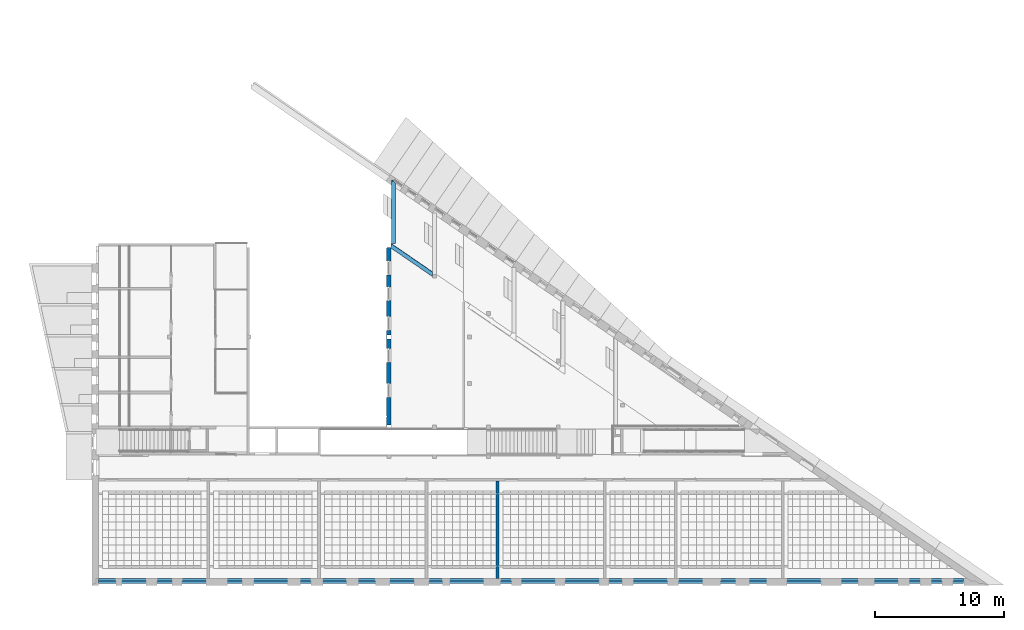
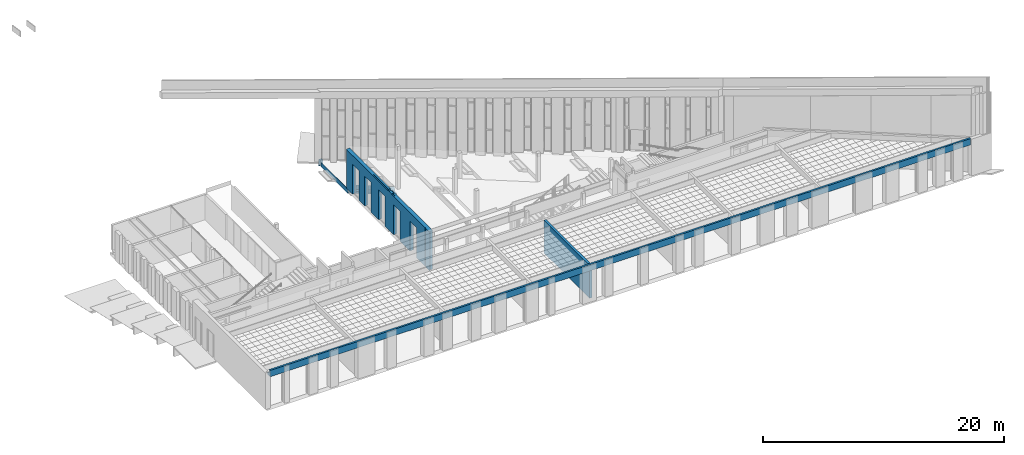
# One storey, part 41 of 79: 5 walls, 5 openings.
"""IFC2X3 building model written with IfcOpenShell, lengths in millimetres."""

from ifc_helpers import new_model, entity, si_unit, converted_unit, derived_unit, money_unit, direction, frame, origin_with_axes, place, context, subcontext, project, spatial, open_shell, faceted_brep, surface_model, material, material_list, type_object, element, save


model = new_model("IFC2X3")

# Units and contexts
model_context = context("Model", 3, precision=0.01, world=origin_with_axes(), true_north=direction((0.0, 1.0)))
body_context = subcontext(model_context, "Body", "Model", "MODEL_VIEW")
ifc_project = project(units=[si_unit("LENGTHUNIT", "METRE", prefix="MILLI"), si_unit("AREAUNIT", "SQUARE_METRE"), si_unit("VOLUMEUNIT", "CUBIC_METRE"), converted_unit("PLANEANGLEUNIT", "DEGREE", entity("IfcPlaneAngleMeasure", 0.0174532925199), si_unit("PLANEANGLEUNIT", "RADIAN"), dimensions=[0, 0, 0, 0, 0, 0, 0]), si_unit("SOLIDANGLEUNIT", "STERADIAN"), money_unit("EUR"), converted_unit("TIMEUNIT", "Year", entity("IfcTimeMeasure", 31556926.0), si_unit("TIMEUNIT", "SECOND"), dimensions=[0, 0, 1, 0, 0, 0, 0]), si_unit("MASSUNIT", "GRAM", prefix="KILO"), si_unit("THERMODYNAMICTEMPERATUREUNIT", "DEGREE_CELSIUS"), si_unit("LUMINOUSINTENSITYUNIT", "LUMEN"), si_unit("ENERGYUNIT", "JOULE", prefix="MEGA"), derived_unit("THERMALCONDUCTANCEUNIT", [(si_unit("POWERUNIT", "WATT"), 1), (si_unit("LENGTHUNIT", "METRE"), -1), (si_unit("THERMODYNAMICTEMPERATUREUNIT", "KELVIN"), -1)]), derived_unit("SPECIFICHEATCAPACITYUNIT", [(si_unit("ENERGYUNIT", "JOULE"), 1), (si_unit("MASSUNIT", "GRAM", prefix="KILO"), -1), (si_unit("THERMODYNAMICTEMPERATUREUNIT", "KELVIN"), -1)]), derived_unit("MASSDENSITYUNIT", [(si_unit("MASSUNIT", "GRAM", prefix="KILO"), 1), (si_unit("VOLUMEUNIT", "CUBIC_METRE"), -1)])], contexts=[model_context])

# Site, building, storey
site_placement = place(None, origin_with_axes())
site = spatial("IfcSite", under=ifc_project, at=site_placement, Name="L.Koidula tn 11b", CompositionType="ELEMENT")
building_placement = place(site_placement, origin_with_axes())
building = spatial("IfcBuilding", under=site, at=building_placement, Name="Rakvere Riigigümnaasium", CompositionType="ELEMENT")
storey_placement = place(building_placement, frame((0.0, 0.0, 3720.0), z_axis=(0.0, 0.0, 1.0), x_axis=(1.0, 0.0, 0.0)))
storey = spatial("IfcBuildingStorey", under=building, at=storey_placement, Name="2.korrus +3,72", CompositionType="ELEMENT", Elevation=3720.0)

# Wall
ifc_material_1 = material(Name="siseviimistlus-seinad")
ifc_material_2 = material(Name="Betoon element / plaat")
ifc_material_list_1 = material_list([ifc_material_1, ifc_material_2, ifc_material_1])
wall_type_1 = type_object("IfcWallType", Name="SS-01-2 220", PredefinedType="NOTDEFINED")
wall_1_placement = place(storey_placement, frame((66340.0149327, 13280.4543717, 0.0), z_axis=(0.0, 0.0, 1.0), x_axis=(0.0, -1.0, 0.0)))
element("IfcWall", 1, at=wall_1_placement, inside=storey, type_object=wall_type_1, material=ifc_material_list_1, Name="Sisesein", context=body_context, shape_type="Brep", body=[
    faceted_brep([(7779.99883287, 200.0, 3320.0), (7779.99883287, 210.0, 3320.0), (210.0, 210.0, 3320.00000006), (210.0, 200.0, 3320.00000006), (7779.99883287, 200.0, 0.0), (7779.99883287, 210.0, 0.0), (210.0, 210.0, 0.0), (210.0, 200.0, 0.0)], [[[0, 1, 2, 3]], [[1, 0, 4, 5]], [[1, 5, 6, 2]], [[3, 2, 6, 7]], [[0, 3, 7, 4]], [[5, 4, 7, 6]]]),
    faceted_brep([(7779.99883287, 0.0, 3320.0), (7779.99883287, 200.0, 3320.0), (200.0, 200.0, 3320.00000006), (200.0, 0.0, 3320.00000006), (7779.99883287, 0.0, 0.0), (7779.99883287, 200.0, 0.0), (200.0, 200.0, 0.0), (200.0, 0.0, 0.0)], [[[0, 1, 2, 3]], [[1, 0, 4, 5]], [[1, 5, 6, 2]], [[3, 2, 6, 7]], [[0, 3, 7, 4]], [[5, 4, 7, 6]]]),
    faceted_brep([(7779.99883287, -10.0, 3320.0), (7779.99883287, 0.0, 3320.0), (210.0, 0.0, 3320.00000006), (210.0, -10.0, 3320.00000006), (7779.99883287, -10.0, 0.0), (7779.99883287, 0.0, 0.0), (210.0, 0.0, 0.0), (210.0, -10.0, 0.0)], [[[0, 1, 2, 3]], [[1, 0, 4, 5]], [[1, 5, 6, 2]], [[3, 2, 6, 7]], [[0, 3, 7, 4]], [[5, 4, 7, 6]]]),
])

# Wall, openings
ifc_material_3 = material(Name="mineraalvill+karkass")
ifc_material_4 = material(Name="Kipsplaat")
ifc_material_list_2 = material_list([ifc_material_2, ifc_material_3, ifc_material_4])
wall_type_2 = type_object("IfcWallType", Name="SS-02 335", PredefinedType="NOTDEFINED")
wall_2_placement = place(storey_placement, frame((58180.0348101, 31500.4555152, -1405.0), z_axis=(0.0, 0.0, 1.0), x_axis=(0.0, -1.0, 0.0)))
wall_2 = element("IfcWall", 2, at=wall_2_placement, inside=storey, type_object=wall_type_2, material=ifc_material_list_2, Name="Sisesein", context=body_context, shape_type="Brep", body=[
    faceted_brep([(11944.3099028, 0.0, 10.0), (11944.3099028, 0.0, 3030.0), (10864.3099028, 0.0, 3030.0), (10864.3099028, 0.0, 10.0), (10864.3099028, 2.12536832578e-06, 0.0), (9244.45907353, 3.16058645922e-06, 0.0), (9244.45907353, 0.0, 10.0), (9244.45907353, 7.17945738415e-05, 3030.0), (8164.45907353, 7.17945738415e-05, 3030.0), (8164.45907353, 0.0, 10.0), (8164.45907353, 3.85079346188e-06, 0.0), (7399.999968, 7.17945738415e-05, 0.0), (7399.999968, 7.17945738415e-05, 3900.0), (14090.0000057, 7.17945667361e-05, 3900.0), (14090.0000057, 7.17945667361e-05, 0.0), (11944.3099028, 1.43516132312e-06, 0.0), (11944.3099028, -200.000025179, 10.0), (11944.3099028, -200.0, 3030.0), (10864.3099028, -200.0, 3030.0), (10864.3099028, -200.000025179, 10.0), (10864.3099028, -200.000025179, 0.0), (9244.45907353, -200.000025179, 0.0), (9244.45907353, -200.000025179, 10.0), (9244.45907353, -200.0, 3030.0), (8164.45907353, -200.0, 3030.0), (8164.45907353, -200.000025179, 10.0), (8164.45907353, -200.000025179, 0.0), (7399.999968, -200.000025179, 0.0), (7399.999968, -120.0, 3900.0), (7399.999968, -200.0, 3955.00000083), (7399.999968, -120.0, 3955.00000083), (7859.80282655, -120.0, 3900.0), (7859.80282655, -200.0, 3900.0), (14090.0000057, -200.0, 3900.0), (14090.0000057, -200.000001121, 0.0), (11944.3099028, -200.000025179, 0.0), (7859.80282655, -200.0, 3955.0000009), (7859.80282655, -120.0, 3955.0000009)], [[[0, 1, 2, 3, 4, 5, 6, 7, 8, 9, 10, 11, 12, 13, 14, 15]], [[1, 0, 16, 17]], [[2, 1, 17, 18]], [[3, 2, 18, 19]], [[3, 19, 20, 4]], [[20, 21, 5, 4]], [[6, 5, 21, 22]], [[6, 22, 23, 7]], [[7, 23, 24, 8]], [[8, 24, 25, 9]], [[25, 26, 10, 9]], [[10, 26, 27, 11]], [[28, 12, 11, 27, 29, 30]], [[12, 28, 31, 32, 33, 13]], [[33, 34, 14, 13]], [[35, 15, 14, 34]], [[16, 0, 15, 35]], [[17, 16, 35, 34, 33, 32, 36, 29, 27, 26, 25, 24, 23, 22, 21, 20, 19, 18]], [[36, 37, 30, 29]], [[37, 31, 28, 30]], [[37, 36, 32, 31]]]),
    faceted_brep([(2445.0463187, 0.0, 10.0), (2445.0463187, 0.0, 3030.0), (1365.0463187, 0.0, 3030.0), (1365.0463187, 0.0, 10.0), (1365.0463187, 8.19614598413e-06, 0.0), (300.000020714, 7.17945738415e-05, 0.0), (300.000020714, 7.17945738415e-05, 3900.0), (7099.999968, 7.17945738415e-05, 3900.0), (7099.999968, 7.17945738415e-05, 0.0), (6744.14874071, 4.7584833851e-06, 0.0), (6744.14874071, 0.0, 10.0), (6744.14874071, 7.17945738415e-05, 3030.0), (5664.14874071, 7.17945738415e-05, 3030.0), (5664.14874071, 0.0, 10.0), (5664.14874071, 5.44868328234e-06, 0.0), (4444.81528977, 6.22793550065e-06, 0.0), (4444.81528977, 0.0, 10.0), (4444.81528977, 0.0, 3030.0), (3364.81528977, 0.0, 3030.0), (3364.81528977, 0.0, 10.0), (3364.81528977, 6.91813539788e-06, 0.0), (2445.0463187, 7.50593898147e-06, 0.0), (2445.0463187, -200.000025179, 10.0), (2445.0463187, -200.000025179, 3030.0), (1365.0463187, -200.000025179, 3030.0), (1365.0463187, -200.000025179, 10.0), (1365.0463187, -200.000025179, 0.0), (300.000020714, -200.000002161, 0.0), (300.000020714, -200.0, 3900.0), (7099.999968, -200.0, 3900.0), (7099.999968, -200.000025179, 0.0), (6744.14874071, -200.000025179, 0.0), (6744.14874071, -200.000025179, 10.0), (6744.14874071, -200.000025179, 3030.0), (5664.14874071, -200.000025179, 3030.0), (5664.14874071, -200.000025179, 10.0), (5664.14874071, -200.000025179, 0.0), (4444.81528977, -200.000025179, 0.0), (4444.81528977, -200.000025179, 10.0), (4444.81528977, -200.000025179, 3030.0), (3364.81528977, -200.000025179, 3030.0), (3364.81528977, -200.000025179, 10.0), (3364.81528977, -200.000025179, 0.0), (2445.0463187, -200.000025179, 0.0)], [[[0, 1, 2, 3, 4, 5, 6, 7, 8, 9, 10, 11, 12, 13, 14, 15, 16, 17, 18, 19, 20, 21]], [[1, 0, 22, 23]], [[2, 1, 23, 24]], [[3, 2, 24, 25]], [[3, 25, 26, 4]], [[26, 27, 5, 4]], [[27, 28, 6, 5]], [[28, 29, 7, 6]], [[30, 8, 7, 29]], [[9, 8, 30, 31]], [[9, 31, 32, 10]], [[32, 33, 11, 10]], [[33, 34, 12, 11]], [[34, 35, 13, 12]], [[36, 14, 13, 35]], [[37, 15, 14, 36]], [[16, 15, 37, 38]], [[16, 38, 39, 17]], [[17, 39, 40, 18]], [[18, 40, 41, 19]], [[41, 42, 20, 19]], [[43, 21, 20, 42]], [[22, 0, 21, 43]], [[23, 22, 43, 42, 41, 40, 39, 38, 37, 36, 35, 34, 33, 32, 31, 30, 29, 28, 27, 26, 25, 24]]]),
    faceted_brep([(11944.3099028, -210.0, 0.0), (11944.3099028, -210.0, 3030.0), (10864.3099028, -210.0, 3030.0), (10864.3099028, -210.0, 0.0), (9244.45907353, -210.0, 0.0), (9244.45907353, -210.0, 3030.0), (8164.45907353, -210.0, 3030.0), (8164.45907353, -210.0, 0.0), (7399.999968, -210.0, 0.0), (7399.999968, -210.0, 3955.00000083), (7859.80282655, -210.0, 3955.0000009), (7859.80282655, -210.0, 3900.0), (14090.0000057, -210.0, 3900.0), (14090.0000057, -210.0, 0.0), (11944.3099028, -310.0, 0.0), (11944.3099028, -310.0, 3030.0), (10864.3099028, -310.0, 3030.0), (10864.3099028, -310.0, 0.0), (9244.45907353, -310.0, 0.0), (9244.45907353, -310.0, 3030.0), (8164.45907353, -310.0, 3030.0), (8164.45907353, -310.0, 0.0), (7099.999968, -299.999928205, 0.0), (7399.999968, -299.999928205, 0.0), (6744.14874071, -310.0, 0.0), (6744.14874071, -210.0, 0.0), (7099.999968, -210.0, 0.0), (7399.999968, -299.999928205, 3955.0000009), (7859.80282655, -310.0, 3955.0000009), (7219.999968, -299.999928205, 3955.0000008), (7219.999968, -310.0, 3955.0000008), (7859.80282655, -310.0, 3900.0), (14190.0000057, -310.0, 3900.0), (14190.0000057, -299.999928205, 3900.0), (14090.0000057, -299.999928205, 3900.0), (14090.0000057, -299.999928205, 0.0), (14190.0000057, -299.999928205, 0.0), (14190.0000057, -310.0, 0.0), (7219.999968, -310.0, 3900.0), (310.0, -310.0, 3900.0), (310.0, -310.0, 0.0), (1365.0463187, -310.0, 0.0), (1365.0463187, -310.0, 3030.0), (2445.0463187, -310.0, 3030.0), (2445.0463187, -310.0, 0.0), (3364.81528977, -310.0, 0.0), (3364.81528977, -310.0, 3030.0), (4444.81528977, -310.0, 3030.0), (4444.81528977, -310.0, 0.0), (5664.14874071, -310.0, 0.0), (5664.14874071, -310.0, 3030.0), (6744.14874071, -310.0, 3030.0), (7099.999968, -299.999928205, 3900.0), (7219.999968, -299.999928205, 3900.0), (6744.14874071, -210.0, 3030.0), (5664.14874071, -210.0, 3030.0), (5664.14874071, -210.0, 0.0), (4444.81528977, -210.0, 0.0), (4444.81528977, -210.0, 3030.0), (3364.81528977, -210.0, 3030.0), (3364.81528977, -210.0, 0.0), (2445.0463187, -210.0, 0.0), (2445.0463187, -210.0, 3030.0), (1365.0463187, -210.0, 3030.0), (1365.0463187, -210.0, 0.0), (310.0, -210.0, 0.0), (310.0, -210.0, 3900.0), (7099.999968, -210.0, 3900.0)], [[[0, 1, 2, 3, 4, 5, 6, 7, 8, 9, 10, 11, 12, 13]], [[1, 0, 14, 15]], [[2, 1, 15, 16]], [[3, 2, 16, 17]], [[3, 17, 18, 4]], [[4, 18, 19, 5]], [[5, 19, 20, 6]], [[6, 20, 21, 7]], [[22, 23, 8, 7, 21, 24, 25, 26]], [[9, 8, 23, 27]], [[28, 10, 9, 27, 29, 30]], [[11, 10, 28, 31]], [[11, 31, 32, 33, 34, 12]], [[12, 34, 35, 13]], [[14, 0, 13, 35, 36, 37]], [[15, 14, 37, 32, 31, 28, 30, 38, 39, 40, 41, 42, 43, 44, 45, 46, 47, 48, 49, 50, 51, 24, 21, 20, 19, 18, 17, 16]], [[27, 23, 22, 52, 53, 29]], [[54, 25, 24, 51]], [[55, 56, 57, 58, 59, 60, 61, 62, 63, 64, 65, 66, 67, 26, 25, 54]], [[67, 52, 22, 26]], [[53, 38, 30, 29]], [[33, 32, 37, 36]], [[33, 36, 35, 34]], [[66, 39, 38, 53, 52, 67]], [[39, 66, 65, 40]], [[40, 65, 64, 41]], [[42, 41, 64, 63]], [[43, 42, 63, 62]], [[44, 43, 62, 61]], [[60, 45, 44, 61]], [[45, 60, 59, 46]], [[46, 59, 58, 47]], [[47, 58, 57, 48]], [[49, 48, 57, 56]], [[56, 55, 50, 49]], [[55, 54, 51, 50]]]),
    faceted_brep([(13481.0000057, -335.0, 3900.0), (13481.0000057, -310.0, 3900.0), (13481.0000057, -310.0, 0.0), (13481.0000057, -335.0, 0.0), (14190.0000057, -310.0, 3900.0), (14190.0000057, -335.0, 3900.0), (14190.0000057, -310.0, 0.0), (14190.0000057, -335.0, 0.0)], [[[0, 1, 2, 3]], [[4, 1, 0, 5]], [[1, 4, 6, 2]], [[2, 6, 7, 3]], [[5, 0, 3, 7]], [[4, 5, 7, 6]]]),
    faceted_brep([(11944.3099028, -310.0, 0.0), (11944.3099028, -310.0, 3030.0), (10864.3099028, -310.0, 3030.0), (10864.3099028, -310.0, 0.0), (9244.45907353, -310.0, 0.0), (9244.45907353, -310.0, 3030.0), (8164.45907353, -310.0, 3030.0), (8164.45907353, -310.0, 0.0), (6744.14874071, -310.0, 0.0), (6744.14874071, -310.0, 3030.0), (5664.14874071, -310.0, 3030.0), (5664.14874071, -310.0, 0.0), (4444.81528977, -310.0, 0.0), (4444.81528977, -310.0, 3030.0), (3364.81528977, -310.0, 3030.0), (3364.81528977, -310.0, 0.0), (2445.0463187, -310.0, 0.0), (2445.0463187, -310.0, 3030.0), (1365.0463187, -310.0, 3030.0), (1365.0463187, -310.0, 0.0), (335.0, -310.0, 0.0), (335.0, -310.0, 3900.0), (7219.999968, -310.0, 3900.0), (7219.999968, -310.0, 3955.00000081), (7859.80282655, -310.0, 3955.00000091), (7859.80282655, -310.0, 3900.0), (13373.0000057, -310.0, 3900.0), (13373.0000057, -310.0, 0.0), (11944.3099028, -335.0, 0.0), (11944.3099028, -335.0, 3030.0), (10864.3099028, -335.0, 3030.0), (10864.3099028, -335.0, 0.0), (9244.45907353, -335.0, 0.0), (9244.45907353, -335.0, 3030.0), (8164.45907353, -335.0, 3030.0), (8164.45907353, -335.0, 0.0), (6744.14874071, -335.0, 0.0), (6744.14874071, -335.0, 3030.0), (5664.14874071, -335.0, 3030.0), (5664.14874071, -335.0, 0.0), (4444.81528977, -335.0, 0.0), (4444.81528977, -335.0, 3030.0), (3364.81528977, -335.0, 3030.0), (3364.81528977, -335.0, 0.0), (2445.0463187, -335.0, 0.0), (2445.0463187, -335.0, 3030.0), (1365.0463187, -335.0, 3030.0), (1365.0463187, -335.0, 0.0), (335.0, -335.0, 0.0), (335.0, -335.0, 3900.0), (7219.999968, -335.0, 3900.0), (7219.999968, -335.0, 3955.00000081), (7859.80282655, -335.0, 3955.00000091), (7859.80282655, -335.0, 3900.0), (12270.015808, -335.0, 3900.0), (13373.0000057, -335.0, 3900.0), (13373.0000057, -335.0, 0.0)], [[[0, 1, 2, 3, 4, 5, 6, 7, 8, 9, 10, 11, 12, 13, 14, 15, 16, 17, 18, 19, 20, 21, 22, 23, 24, 25, 26, 27]], [[1, 0, 28, 29]], [[2, 1, 29, 30]], [[3, 2, 30, 31]], [[3, 31, 32, 4]], [[4, 32, 33, 5]], [[5, 33, 34, 6]], [[6, 34, 35, 7]], [[35, 36, 8, 7]], [[9, 8, 36, 37]], [[10, 9, 37, 38]], [[11, 10, 38, 39]], [[39, 40, 12, 11]], [[41, 13, 12, 40]], [[42, 14, 13, 41]], [[43, 15, 14, 42]], [[15, 43, 44, 16]], [[44, 45, 17, 16]], [[45, 46, 18, 17]], [[46, 47, 19, 18]], [[48, 20, 19, 47]], [[21, 20, 48, 49]], [[50, 22, 21, 49]], [[23, 22, 50, 51]], [[24, 23, 51, 52]], [[24, 52, 53, 25]], [[25, 53, 54, 55, 26]], [[55, 56, 27, 26]], [[28, 0, 27, 56]], [[29, 28, 56, 55, 54, 53, 52, 51, 50, 49, 48, 47, 46, 45, 44, 43, 42, 41, 40, 39, 38, 37, 36, 35, 34, 33, 32, 31, 30]]]),
])
opening_1_placement = place(wall_2_placement, frame((6204.14874071, 0.0, 0.0), z_axis=(0.0, 0.0, 1.0), x_axis=(1.0, 0.0, 0.0)))
element("IfcOpeningElement", 3, at=opening_1_placement, cuts=wall_2, Name="ava", context=body_context, shape_type="Brep", body=[
    faceted_brep([(-540.0, -335.0, 0.0), (-540.0, -335.0, 3030.0), (-540.0, 670.0, 3030.0), (-540.0, 670.0, 0.0), (540.0, -335.0, 0.0), (540.0, -335.0, 3030.0), (540.0, 670.0, 3030.0), (540.0, 670.0, 0.0)], [[[0, 1, 2, 3]], [[0, 4, 5, 1]], [[1, 5, 6, 2]], [[3, 2, 6, 7]], [[4, 0, 3, 7]], [[5, 4, 7, 6]]]),
])
opening_2_placement = place(wall_2_placement, frame((3904.81528977, 0.0, 0.0), z_axis=(0.0, 0.0, 1.0), x_axis=(1.0, 0.0, 0.0)))
element("IfcOpeningElement", 4, at=opening_2_placement, cuts=wall_2, Name="ava", context=body_context, shape_type="Brep", body=[
    faceted_brep([(-540.0, -335.0, 0.0), (-540.0, -335.0, 3030.0), (-540.0, 670.0, 3030.0), (-540.0, 670.0, 0.0), (540.0, -335.0, 0.0), (540.0, -335.0, 3030.0), (540.0, 670.0, 3030.0), (540.0, 670.0, 0.0)], [[[0, 1, 2, 3]], [[0, 4, 5, 1]], [[1, 5, 6, 2]], [[3, 2, 6, 7]], [[4, 0, 3, 7]], [[5, 4, 7, 6]]]),
])
opening_3_placement = place(wall_2_placement, frame((1905.0463187, 0.0, 0.0), z_axis=(0.0, 0.0, 1.0), x_axis=(1.0, 0.0, 0.0)))
element("IfcOpeningElement", 5, at=opening_3_placement, cuts=wall_2, Name="ava", context=body_context, shape_type="Brep", body=[
    faceted_brep([(-540.0, -335.0, 0.0), (-540.0, -335.0, 3030.0), (-540.0, 670.0, 3030.0), (-540.0, 670.0, 0.0), (540.0, -335.0, 0.0), (540.0, -335.0, 3030.0), (540.0, 670.0, 3030.0), (540.0, 670.0, 0.0)], [[[0, 1, 2, 3]], [[0, 4, 5, 1]], [[1, 5, 6, 2]], [[3, 2, 6, 7]], [[4, 0, 3, 7]], [[5, 4, 7, 6]]]),
])
opening_4_placement = place(wall_2_placement, frame((8704.45907353, 0.0, 0.0), z_axis=(0.0, 0.0, 1.0), x_axis=(1.0, 0.0, 0.0)))
element("IfcOpeningElement", 6, at=opening_4_placement, cuts=wall_2, Name="ava", context=body_context, shape_type="Brep", body=[
    faceted_brep([(-540.0, -335.0, 0.0), (-540.0, -335.0, 3030.0), (-540.0, 670.0, 3030.0), (-540.0, 670.0, 0.0), (540.0, -335.0, 0.0), (540.0, -335.0, 3030.0), (540.0, 670.0, 3030.0), (540.0, 670.0, 0.0)], [[[0, 1, 2, 3]], [[0, 4, 5, 1]], [[1, 5, 6, 2]], [[3, 2, 6, 7]], [[4, 0, 3, 7]], [[5, 4, 7, 6]]]),
])
opening_5_placement = place(wall_2_placement, frame((11404.3099028, 0.0, 0.0), z_axis=(0.0, 0.0, 1.0), x_axis=(1.0, 0.0, 0.0)))
element("IfcOpeningElement", 7, at=opening_5_placement, cuts=wall_2, Name="ava", context=body_context, shape_type="Brep", body=[
    faceted_brep([(-540.0, -335.0, 0.0), (-540.0, -335.0, 3030.0), (-540.0, 670.0, 3030.0), (-540.0, 670.0, 0.0), (540.0, -335.0, 0.0), (540.0, -335.0, 3030.0), (540.0, 670.0, 3030.0), (540.0, 670.0, 0.0)], [[[0, 1, 2, 3]], [[0, 4, 5, 1]], [[1, 5, 6, 2]], [[3, 2, 6, 7]], [[4, 0, 3, 7]], [[5, 4, 7, 6]]]),
])

# Walls
ifc_material_5 = material(Name="FF-PIR soojustus-2")
ifc_material_6 = material(Name="Betoon-element")
ifc_material_7 = material(Name="Krohv")
ifc_material_list_3 = material_list([ifc_material_5, ifc_material_6, ifc_material_7])
wall_type_3 = type_object("IfcWallType", Name="VS-01-3 390", PredefinedType="NOTDEFINED")
wall_3_placement = place(storey_placement, frame((102599.965664, 5500.45553887, 3075.00001808), z_axis=(0.0, 0.0, 1.0), x_axis=(-1.0, 0.0, 0.0)))
element("IfcWall", 8, at=wall_3_placement, inside=storey, type_object=wall_type_3, material=ifc_material_list_3, Name="Välissein", context=body_context, shape_type="Brep", body=[
    faceted_brep([(67099.0, 200.0, 645.0), (67099.0, 380.0, 645.0), (0.0, 380.0, 645.0), (0.0, 200.0, 645.0), (67099.0, 200.0, 0.0), (67099.0, 380.0, 0.0), (0.0, 380.0, 0.0), (0.0, 200.0, 0.0)], [[[0, 1, 2, 3]], [[0, 4, 5, 1]], [[1, 5, 6, 2]], [[3, 2, 6, 7]], [[4, 0, 3, 7]], [[5, 4, 7, 6]]]),
    faceted_brep([(67099.0, 0.0, 249.999981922), (0.0, 0.0, 249.999981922), (0.0, 0.0, 0.0), (67099.0, 0.0, 0.0), (0.0, 200.0, 249.999981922), (67099.0, 200.0, 249.999981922), (0.0, 200.0, 0.0), (67099.0, 200.0, 0.0)], [[[0, 1, 2, 3]], [[4, 1, 0, 5]], [[1, 4, 6, 2]], [[2, 6, 7, 3]], [[5, 0, 3, 7]], [[4, 5, 7, 6]]]),
    faceted_brep([(67099.0, -10.0, 249.999981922), (0.0, -10.0, 249.999981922), (0.0, -10.0, 0.0), (13939.9656623, -10.0, 0.0), (13939.9656623, -10.0, 244.999981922), (14119.9656623, -10.0, 244.999981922), (14119.9656623, -10.0, 0.0), (22239.9213507, -10.0, 0.0), (22239.9213507, -10.0, 244.999981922), (22419.9213507, -10.0, 244.999981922), (22419.9213507, -10.0, 0.0), (27729.9505752, -10.0, 0.0), (27729.9505752, -10.0, 244.999981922), (27949.9505752, -10.0, 244.999981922), (27949.9505752, -10.0, 0.0), (36049.9507315, -10.0, 0.0), (36049.9507315, -10.0, 244.999981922), (36269.9507315, -10.0, 244.999981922), (36269.9507315, -10.0, 0.0), (41569.9493725, -10.0, 0.0), (41569.9493725, -10.0, 244.999981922), (41789.9493725, -10.0, 244.999981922), (41789.9493725, -10.0, 0.0), (49889.9890257, -10.0, 0.0), (49889.9890257, -10.0, 244.999981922), (50109.9890257, -10.0, 244.999981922), (50109.9890257, -10.0, 0.0), (58509.9656617, -10.0, 0.0), (58509.9656617, -10.0, 244.999981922), (58689.9656617, -10.0, 244.999981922), (58689.9656617, -10.0, 0.0), (67099.0, -10.0, 0.0), (0.0, 0.0, 249.999981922), (67099.0, 0.0, 249.999981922), (0.0, 0.0, 0.0), (13939.9656623, 0.0, 0.0), (13939.9656623, 0.0, 244.999981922), (14119.9656623, 0.0, 244.999981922), (14119.9656623, 0.0, 0.0), (22239.9213507, 0.0, 0.0), (22239.9213507, 0.0, 244.999981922), (22419.9213507, 0.0, 244.999981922), (22419.9213507, 0.0, 0.0), (27729.9505752, 0.0, 0.0), (27729.9505752, 0.0, 244.999981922), (27949.9505752, 0.0, 244.999981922), (27949.9505752, 0.0, 0.0), (36049.9507315, 0.0, 0.0), (36049.9507315, 0.0, 244.999981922), (36269.9507315, 0.0, 244.999981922), (36269.9507315, 0.0, 0.0), (41569.9493725, 0.0, 0.0), (41569.9493725, 0.0, 244.999981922), (41789.9493725, 0.0, 244.999981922), (41789.9493725, 0.0, 0.0), (49889.9890257, 0.0, 0.0), (49889.9890257, 0.0, 244.999981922), (50109.9890257, 0.0, 244.999981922), (50109.9890257, 0.0, 0.0), (58509.9656617, 0.0, 0.0), (58509.9656617, 0.0, 244.999981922), (58689.9656617, 0.0, 244.999981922), (58689.9656617, 0.0, 0.0), (67099.0, 0.0, 0.0)], [[[0, 1, 2, 3, 4, 5, 6, 7, 8, 9, 10, 11, 12, 13, 14, 15, 16, 17, 18, 19, 20, 21, 22, 23, 24, 25, 26, 27, 28, 29, 30, 31]], [[32, 1, 0, 33]], [[1, 32, 34, 2]], [[34, 35, 3, 2]], [[36, 4, 3, 35]], [[37, 5, 4, 36]], [[38, 6, 5, 37]], [[7, 6, 38, 39]], [[40, 8, 7, 39]], [[41, 9, 8, 40]], [[42, 10, 9, 41]], [[42, 43, 11, 10]], [[44, 12, 11, 43]], [[12, 44, 45, 13]], [[46, 14, 13, 45]], [[15, 14, 46, 47]], [[48, 16, 15, 47]], [[16, 48, 49, 17]], [[50, 18, 17, 49]], [[50, 51, 19, 18]], [[52, 20, 19, 51]], [[20, 52, 53, 21]], [[54, 22, 21, 53]], [[54, 55, 23, 22]], [[56, 24, 23, 55]], [[24, 56, 57, 25]], [[58, 26, 25, 57]], [[58, 59, 27, 26]], [[60, 28, 27, 59]], [[61, 29, 28, 60]], [[62, 30, 29, 61]], [[31, 30, 62, 63]], [[33, 0, 31, 63]], [[32, 33, 63, 62, 61, 60, 59, 58, 57, 56, 55, 54, 53, 52, 51, 50, 49, 48, 47, 46, 45, 44, 43, 42, 41, 40, 39, 38, 37, 36, 35, 34]]]),
])
ifc_material_8 = material(Name="Parkett-2")
ifc_material_9 = material(Name="Viineer")
ifc_material_list_4 = material_list([ifc_material_8, ifc_material_9, ifc_material_2])
wall_type_4 = type_object("IfcWallType", Name="SS-01-3 320", PredefinedType="NOTDEFINED")
wall_4_placement = place(storey_placement, frame((58224.8070978, 31510.4555152, -2505.17818485), z_axis=(0.0, 0.0, 1.0), x_axis=(0.0, 1.0, 0.0)))
element("IfcWall", 9, at=wall_4_placement, inside=storey, type_object=wall_type_4, material=ifc_material_list_4, Name="Sisesein", context=body_context, shape_type="Brep", body=[
    faceted_brep([(4877.17600853, 10.0, 170.0), (4881.88920972, 10.0, 170.0), (4881.88920972, 10.0, 0.0), (4929.2863358, 10.0, 0.0), (4929.2863358, 10.0, 645.178184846), (4877.17600853, 10.0, 645.178184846), (4888.74798428, 20.0, 170.0), (4884.03478308, 20.0, 170.0), (4888.74798428, 20.0, 0.0), (4929.2863358, 20.0, 0.0), (4929.2863358, 20.0, 645.178184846), (4884.03478308, 20.0, 645.178184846)], [[[0, 1, 2, 3, 4, 5]], [[6, 1, 0, 7]], [[8, 2, 1, 6]], [[3, 2, 8, 9]], [[9, 10, 4, 3]], [[11, 5, 4, 10]], [[11, 7, 0, 5]], [[8, 6, 7, 11, 10, 9]]]),
    faceted_brep([(0.0, 10.0, 645.178184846), (0.0, 10.0, 170.0), (4513.39240587, 10.0, 170.0), (4513.39240587, 10.0, 645.178184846), (0.0, 20.0, 645.178184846), (0.0, 20.0, 170.0), (4520.25118043, 20.0, 170.0), (4520.25118043, 20.0, 645.178184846)], [[[0, 1, 2, 3]], [[4, 5, 1, 0]], [[5, 6, 2, 1]], [[3, 2, 6, 7]], [[0, 3, 7, 4]], [[7, 6, 5, 4]]]),
    faceted_brep([(4870.31723397, 0.0, 170.0), (4875.03043517, 0.0, 170.0), (4875.03043517, 0.0, 0.0), (4929.2863358, 0.0, 0.0), (4929.2863358, 0.0, 645.178184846), (4875.03043745, 0.0, 645.178184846), (4875.03043745, 0.0, 465.178184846), (4870.31723397, 0.0, 465.178184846), (4881.88920972, 10.0, 170.0), (4877.17600853, 10.0, 170.0), (4881.88920972, 10.0, 0.0), (4929.2863358, 10.0, 0.0), (4929.2863358, 10.0, 645.178184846), (4881.8892115, 10.0, 645.178184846), (4881.8892115, 10.0, 465.178184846), (4877.17600853, 10.0, 465.178184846)], [[[0, 1, 2, 3, 4, 5, 6, 7]], [[8, 1, 0, 9]], [[10, 2, 1, 8]], [[3, 2, 10, 11]], [[11, 12, 4, 3]], [[12, 13, 5, 4]], [[5, 13, 14, 6]], [[15, 7, 6, 14]], [[15, 9, 0, 7]], [[10, 8, 9, 15, 14, 13, 12, 11]]]),
    faceted_brep([(0.0, 0.0, 465.178184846), (0.0, 0.0, 170.0), (4506.53363132, 0.0, 170.0), (4506.53363132, 0.0, 465.178184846), (0.0, 10.0, 465.178184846), (0.0, 10.0, 170.0), (4513.39240587, 10.0, 170.0), (4513.39240587, 10.0, 465.178184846)], [[[0, 1, 2, 3]], [[4, 5, 1, 0]], [[5, 6, 2, 1]], [[3, 2, 6, 7]], [[4, 0, 3, 7]], [[7, 6, 5, 4]]]),
    faceted_brep([(0.0, -300.000002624, 170.0), (4669.26719679, -300.000002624, 170.0), (4669.26719679, -300.000002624, 0.0), (4929.2863358, -300.0, 0.0), (4929.2863358, -300.0, 645.178184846), (4669.26721618, -300.0, 645.178184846), (4669.26721618, -300.0, 200.178184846), (0.0, -300.0, 200.178184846), (0.0, 0.0, 170.0), (4875.03043517, 0.0, 170.0), (4875.03043517, 0.0, 0.0), (4929.2863358, 0.0, 0.0), (4929.2863358, 0.0, 645.178184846), (4875.03043745, 0.0, 645.178184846), (4875.03043745, 0.0, 200.178184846), (0.0, 0.0, 200.178184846)], [[[0, 1, 2, 3, 4, 5, 6, 7]], [[8, 9, 1, 0]], [[10, 2, 1, 9]], [[3, 2, 10, 11]], [[11, 12, 4, 3]], [[12, 13, 5, 4]], [[5, 13, 14, 6]], [[7, 6, 14, 15]], [[15, 8, 0, 7]], [[10, 9, 8, 15, 14, 13, 12, 11]]]),
])
wall_5_placement = place(storey_placement, frame((58187.898425, 31511.921224, -2040.0), z_axis=(0.0, 0.0, 1.0), x_axis=(0.824681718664, -0.565597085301, 0.0)))
element("IfcWall", 10, at=wall_5_placement, inside=storey, type_object=wall_type_4, material=ifc_material_list_4, Name="Sisesein", context=body_context, shape_type="SurfaceModel", body=[
    surface_model("IfcShellBasedSurfaceModel", [(0.0, 0.0, 0.0), (0.0, -9.99999999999, 0.0), (0.0, -9.99999999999, 645.0), (0.0, 0.0, 645.0), (3889.69258812, -10.0, 0.0), (3882.83425587, 0.0, 0.0), (3889.69258812, -10.0, 645.0), (23.3715239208, -10.0, 645.0), (23.3715239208, -10.0, 200.0), (5.69112257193, -10.0, 200.0), (5.69112257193, -10.0, 645.0), (20.2718163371, -3.20375193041e-06, 645.0), (3882.83425587, 0.0, 645.0), (20.2718163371, -3.20375193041e-06, 200.0)], [open_shell([[[0, 1, 2, 3]], [[4, 1, 0, 5]], [[6, 7, 8, 9, 10, 2, 1, 4]], [[2, 10, 11, 3]], [[5, 0, 3, 11, 12]], [[4, 5, 12, 6]], [[11, 7, 6, 12]], [[13, 8, 7, 11]], [[13, 9, 8]], [[11, 10, 9, 13]]])]),
    faceted_brep([(4.181490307, -20.0, 0.0), (4.18141397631, -20.0, 200.0), (-9.53237133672e-06, -13.9031958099, 200.0), (-1.15064224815e-06, -13.9032184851, 0.0), (3908.6767903, -20.0, 0.0), (3908.6767903, -20.0, 465.0), (26.4712324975, -20.0, 465.0), (26.4712324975, -20.0, 200.0), (23.3715239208, -9.99999999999, 200.0), (5.69112257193, -10.0, 200.0), (-9.53237133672e-06, -13.9031958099, 645.0), (0.0, -9.99999999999, 645.0), (0.0, -9.99999999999, 0.0), (3901.81845804, -9.99999999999, 0.0), (3901.81845804, -9.99999999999, 465.0), (23.3715239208, -9.99999999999, 465.0), (5.69112257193, -10.0, 645.0)], [[[0, 1, 2, 3]], [[1, 0, 4, 5, 6, 7]], [[2, 1, 7, 8, 9]], [[2, 10, 11, 12, 3]], [[0, 3, 12, 13, 4]], [[4, 13, 14, 5]], [[15, 6, 5, 14]], [[15, 8, 7, 6]], [[8, 15, 14, 13, 12, 11, 16, 9]], [[10, 2, 9, 16]], [[11, 10, 16]]]),
    faceted_brep([(4015.69941216, -158.367096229, 180.0), (4015.69941216, -158.367096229, 0.0), (3920.80266022, -20.0, 0.0), (3920.80266022, -20.0, 200.0), (4126.55262793, -320.0, 200.0), (4126.55262793, -320.0, 180.0), (3999.22275072, -169.66739727, 180.0), (3999.22275072, -169.66739727, 0.0), (4102.32638453, -320.0, 0.0), (84.1015286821, -320.0, 0.0), (169.679188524, -261.307690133, 0.0), (4.181490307, -20.0, 0.0), (4.1814658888, -19.9999643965, 200.0), (169.679188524, -261.307690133, 200.0), (84.1016498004, -319.999916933, 200.0), (119.4624898, -320.0, 200.0), (4102.32638453, -320.0, 180.0)], [[[0, 1, 2, 3, 4, 5]], [[1, 0, 6, 7]], [[7, 8, 9, 10, 11, 2, 1]], [[11, 12, 3, 2]], [[13, 14, 15, 4, 3, 12]], [[16, 5, 4, 15, 14, 9, 8]], [[0, 5, 16, 6]], [[8, 7, 6, 16]], [[14, 13, 10, 9]], [[13, 12, 11, 10]]]),
])

save(model, "model.ifc")
